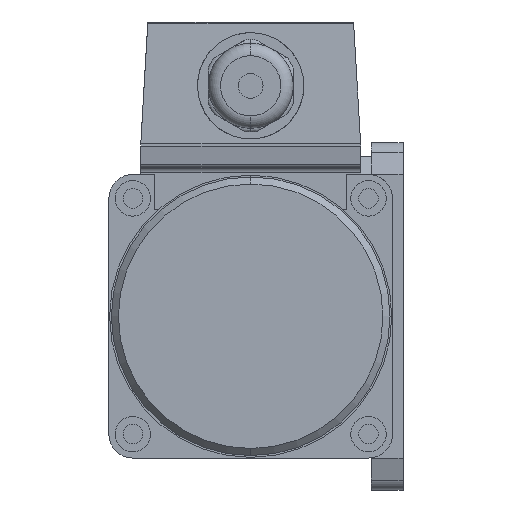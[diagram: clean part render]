
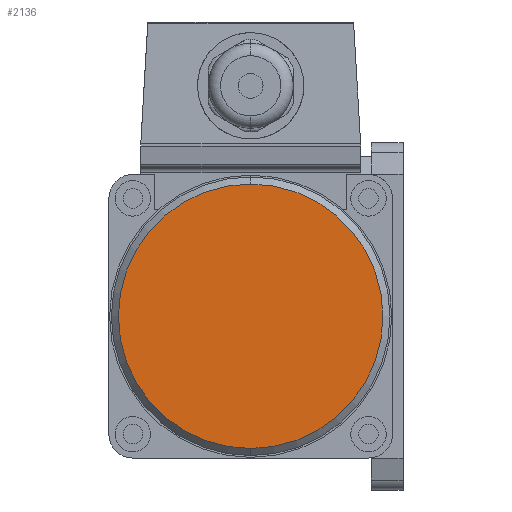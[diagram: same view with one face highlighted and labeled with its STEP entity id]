
A CAD part, left-side view. The second image highlights one B-rep face of the part: STEP entity #2136.
In plain terms, the highlighted planar face has unit normal (-1, 0, 0).
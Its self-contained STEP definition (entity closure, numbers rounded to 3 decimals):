
#2116=CARTESIAN_POINT('POINT560103',(-146.,43.,22.3));
#2117=VERTEX_POINT('VERTEX560103',#2116);
#2118=CARTESIAN_POINT('POINT560104',(-146.,43.,-52.3));
#2119=VERTEX_POINT('VERTEX560104',#2118);
#2120=CARTESIAN_POINT('POS920006',(-146.,43.,-15.));
#2121=DIRECTION('DIR1352273',(1.,0.,0.));
#2122=DIRECTION('DIR1352274',(0.,0.,1.));
#2123=AXIS2_PLACEMENT_3D('AXIS432268',#2120,#2121,#2122);
#2124=CIRCLE('ELLIPSE184421',#2123,37.3);
#2125=EDGE_CURVE('EDGE865459',#2117,#2119,#2124,.T.);
#2126=ORIENTED_EDGE('COEDGE1731473',*,*,#2125,.F.);
#2127=EDGE_CURVE('EDGE865460',#2119,#2117,#2124,.T.);
#2128=ORIENTED_EDGE('COEDGE1731474',*,*,#2127,.F.);
#2129=EDGE_LOOP('NONE',(#2126,#2128));
#2130=FACE_BOUND('LOOP1',#2129,.T.);
#2131=CARTESIAN_POINT('POS920007',(-146.,43.,
   3.65));
#2132=DIRECTION('DIR1352275',(-1.,0.,0.));
#2133=DIRECTION('DIR1352276',(0.,1.,0.));
#2134=AXIS2_PLACEMENT_3D('AXIS432269',#2131,#2132,#2133);
#2135=PLANE('PLANE165875',#2134);
#2136=ADVANCED_FACE('FACE343509',(#2130),#2135,.T.);
